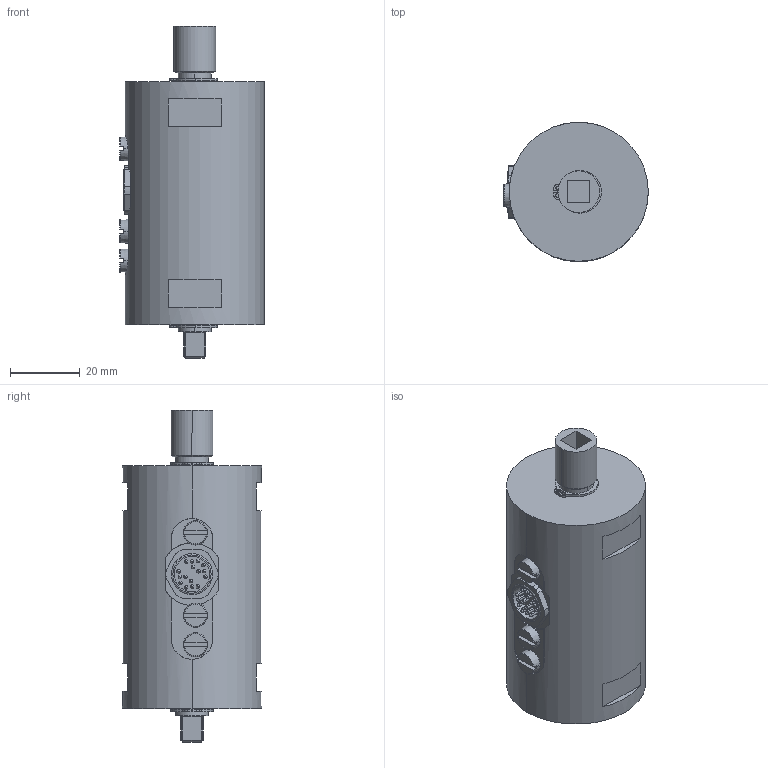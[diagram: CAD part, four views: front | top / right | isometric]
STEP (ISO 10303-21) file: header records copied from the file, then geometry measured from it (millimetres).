
FILE_DESCRIPTION(('STEP AP214'),'1');
FILE_NAME('burster_8646-5005_ez4xk55axqtmqmvqcjjehky3x.stp','2017-04-20T18:13:09',('TraceParts'),('TraceParts S.A.'),'Spatial InterOp 3D',' ',' ');
FILE_SCHEMA(('automotive_design'));
Length unit declared in the file: millimetre
Products named in the file (3): burster_8646-5005_ez4xk55axqtmqmvqcjjehky3x_1; burster_8646-5005_ez4xk55axqtmqmvqcjjehky3x_2; burster_8646-5005_ez4xk55axqtmqmvqcjjehky3x_3
Bounding box: 41.6 x 40 x 95.5 mm (x, y, z)
Volume: 89106.1 mm3; surface area: 13663.1 mm2
Topology: 3 solids, 5 shells, 275 faces, 722 edges, 445 vertices
Faces by surface type: cylinder 110, plane 83, sphere 32, torus 26, cone 16, bspline 8
Entity records: 11223 total; most frequent: CARTESIAN_POINT 2115, DIRECTION 1579, ORIENTED_EDGE 1364, EDGE_CURVE 682, AXIS2_PLACEMENT_3D 669, VERTEX_POINT 445, CIRCLE 367, EDGE_LOOP 315
